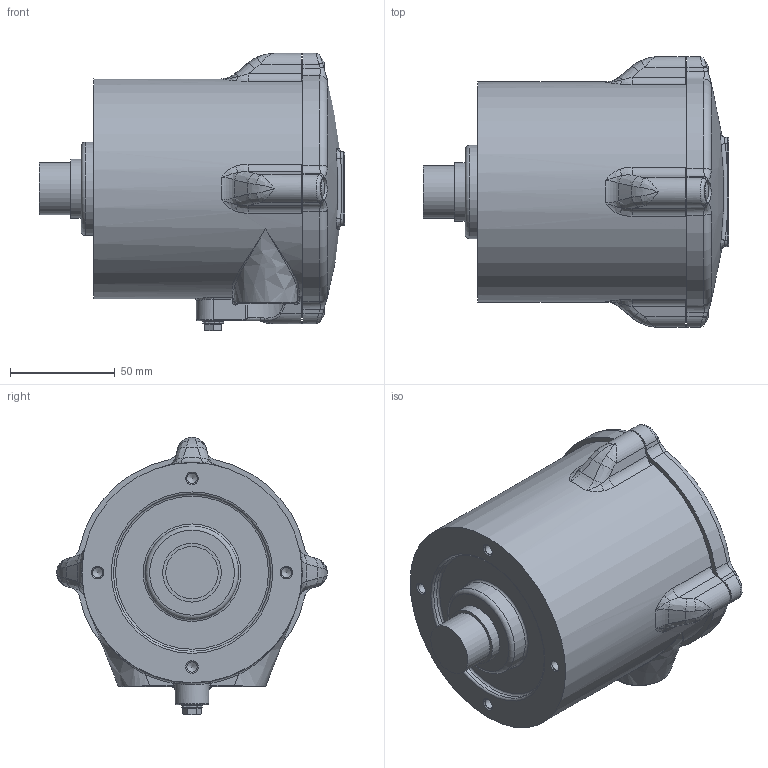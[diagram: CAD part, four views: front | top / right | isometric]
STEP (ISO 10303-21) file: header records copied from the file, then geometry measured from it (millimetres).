
FILE_DESCRIPTION(/* description */ (''),/* implementation_level */ '2;1');
FILE_NAME(/* name */ '\\SRVGEST\camlogic\TEMP\Kulwant S\2_STEP\2_STEP\SMD20\SMD-20-P.stp',/* time_stamp */ '2021-06-15T11:24:15+02:00',/* author */ ('kulwant.singh'),/* organization */ (''),/* preprocessor_version */ 'ST-DEVELOPER v18.1',/* originating_system */ 'Autodesk Inventor 2022',/* authorisation */ '');
FILE_SCHEMA (('AUTOMOTIVE_DESIGN { 1 0 10303 214 3 1 1 }'));
Length unit declared in the file: millimetre
Products named in the file (1): SMD-20-P
Bounding box: 145.8 x 129 x 132.18 mm (x, y, z)
Volume: 1039489.2 mm3; surface area: 70040.3 mm2
Topology: 1 solids, 1 shells, 541 faces, 1403 edges, 864 vertices
Faces by surface type: plane 157, cylinder 142, bspline 100, cone 75, torus 54, sphere 13
Full cylindrical faces by diameter (mm): 4.6 x4, 4.917 x4, 5 x5, 5.5 x4, 6.88 x1, 10.5 x4, 18.631 x2, 25 x1, 28 x1, 44.5 x1, 75 x1, 105 x1
Entity records: 20213 total; most frequent: CARTESIAN_POINT 7007, ORIENTED_EDGE 2750, DIRECTION 2562, EDGE_CURVE 1375, AXIS2_PLACEMENT_3D 1059, VERTEX_POINT 864, CIRCLE 593, EDGE_LOOP 577
